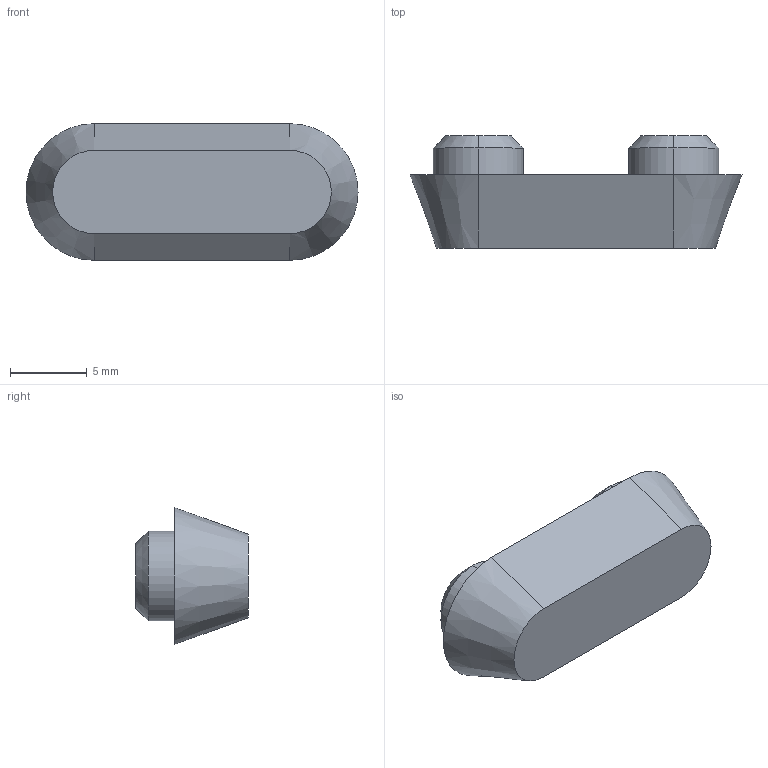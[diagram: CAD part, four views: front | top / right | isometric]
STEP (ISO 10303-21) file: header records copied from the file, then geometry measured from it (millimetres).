
FILE_DESCRIPTION (( 'STEP AP214' ), '1' );
FILE_NAME ('16 - Tan-Side Base Foot (Quantity 1).STEP', '2022-11-25T05:49:22', ( '' ), ( '' ), 'SwSTEP 2.0', 'SolidWorks 2021', '' );
FILE_SCHEMA (( 'AUTOMOTIVE_DESIGN' ));
Length unit declared in the file: inch
Products named in the file (1): 16 - Tan-Side Base Foot (Quantity 1)
Bounding box: 21.59 x 7.3 x 8.89 mm (x, y, z)
Volume: 753.8 mm3; surface area: 584.2 mm2
Topology: 1 solids, 1 shells, 16 faces, 32 edges, 20 vertices
Faces by surface type: cone 6, plane 6, cylinder 4
Entity records: 460 total; most frequent: DIRECTION 82, CARTESIAN_POINT 69, ORIENTED_EDGE 64, AXIS2_PLACEMENT_3D 33, EDGE_CURVE 32, VERTEX_POINT 20, EDGE_LOOP 18, LINE 16
